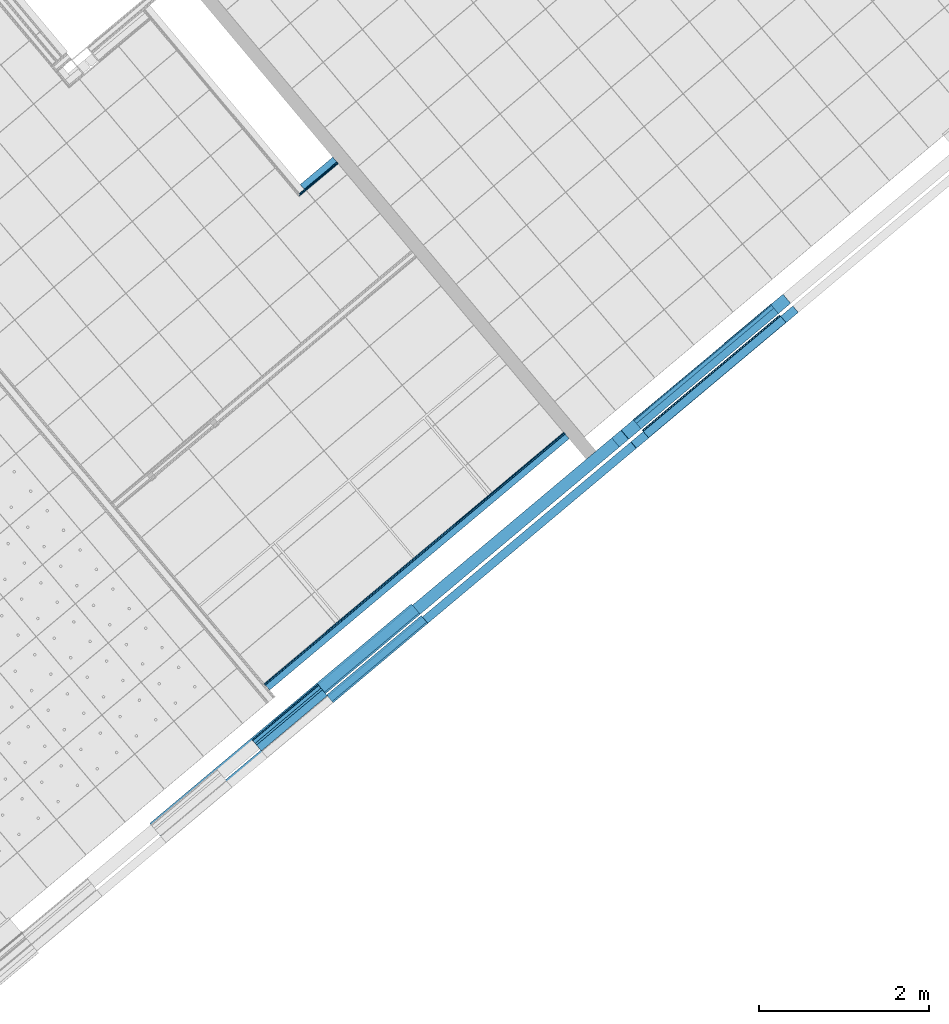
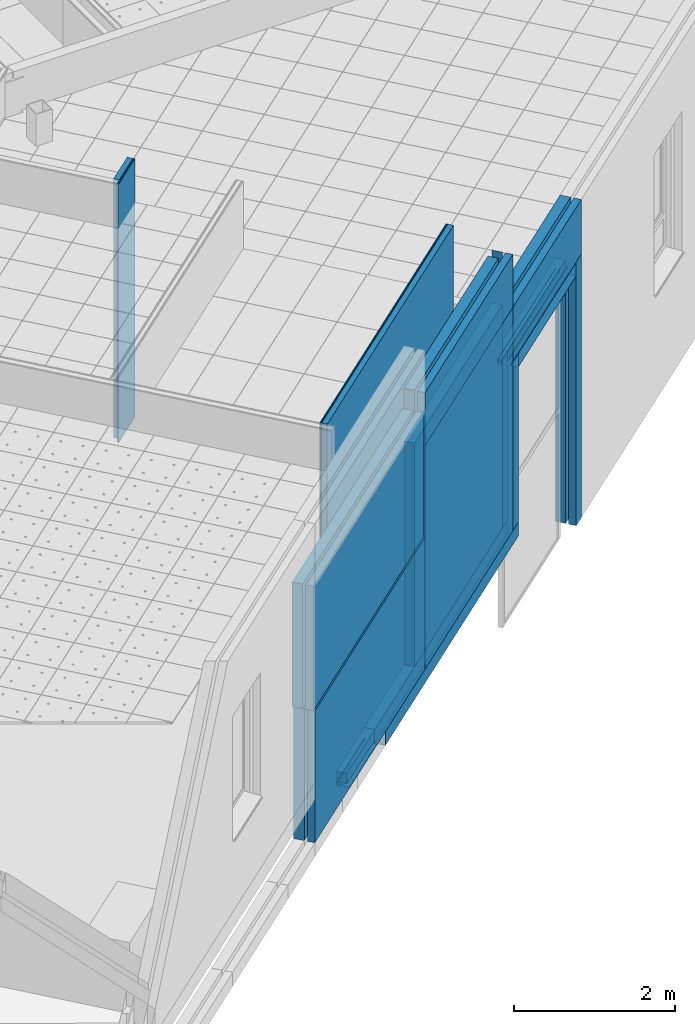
# One storey, part 53 of 321: 31 building element parts, 12 elements without a shape of their own.
"""IFC2X3 building model written with IfcOpenShell, lengths in millimetres."""

from ifc_helpers import new_model, entity, si_unit, converted_unit, derived_unit, money_unit, direction, frame, origin_with_axes, place, context, subcontext, project, spatial, faceted_brep, material, type_object, element, aggregate, save


model = new_model("IFC2X3")

# Units and contexts
model_context = context("Model", 3, precision=0.01, world=origin_with_axes(), true_north=direction((0.0, 1.0)))
plan_context = context("Plan", 3, precision=0.01, world=origin_with_axes(), true_north=direction((0.0, 1.0)))
body_context = subcontext(model_context, "Body", "Model", "MODEL_VIEW")
ifc_project = project(units=[si_unit("LENGTHUNIT", "METRE", prefix="MILLI"), si_unit("AREAUNIT", "SQUARE_METRE"), si_unit("VOLUMEUNIT", "CUBIC_METRE"), converted_unit("PLANEANGLEUNIT", "DEGREE", entity("IfcPlaneAngleMeasure", 0.0174532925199), si_unit("PLANEANGLEUNIT", "RADIAN"), dimensions=[0, 0, 0, 0, 0, 0, 0]), money_unit("EUR"), converted_unit("TIMEUNIT", "Year", entity("IfcTimeMeasure", 31556926.0), si_unit("TIMEUNIT", "SECOND"), dimensions=[0, 0, 1, 0, 0, 0, 0]), si_unit("MASSUNIT", "GRAM", prefix="KILO"), si_unit("THERMODYNAMICTEMPERATUREUNIT", "DEGREE_CELSIUS"), si_unit("LUMINOUSINTENSITYUNIT", "LUMEN"), si_unit("ENERGYUNIT", "JOULE", prefix="MEGA"), derived_unit("THERMALCONDUCTANCEUNIT", [(si_unit("POWERUNIT", "WATT"), 1), (si_unit("LENGTHUNIT", "METRE"), -1), (si_unit("THERMODYNAMICTEMPERATUREUNIT", "KELVIN"), -1)]), derived_unit("SPECIFICHEATCAPACITYUNIT", [(si_unit("ENERGYUNIT", "JOULE"), 1), (si_unit("MASSUNIT", "GRAM", prefix="KILO"), -1), (si_unit("THERMODYNAMICTEMPERATUREUNIT", "KELVIN"), -1)]), derived_unit("MASSDENSITYUNIT", [(si_unit("MASSUNIT", "GRAM", prefix="KILO"), 1), (si_unit("VOLUMEUNIT", "CUBIC_METRE"), -1)])], contexts=[model_context, plan_context])

# Site, building, storey
site_placement = place(None, origin_with_axes())
site = spatial("IfcSite", under=ifc_project, at=site_placement, Name="Fortuinstraat Woensdrecht", CompositionType="ELEMENT")
building_placement = place(site_placement, origin_with_axes())
building = spatial("IfcBuilding", under=site, at=building_placement, Name="IKC Fortuna", CompositionType="ELEMENT")
storey_placement = place(building_placement, frame((0.0, 0.0, 4000.0), z_axis=(0.0, 0.0, 1.0), x_axis=(1.0, 0.0, 0.0)))
storey = spatial("IfcBuildingStorey", under=building, at=storey_placement, Name="01 eerste verdieping", CompositionType="ELEMENT", Elevation=4000.0)

# Covering, building element parts
covering_type_1 = type_object("IfcCoveringType", Name="41 Latei MW rollaag zw 280 x 227", PredefinedType="NOTDEFINED")
covering_1_placement = place(storey_placement, frame((30121.0312369, -3533.18185942, 2800.0), z_axis=(0.0, 0.0, 1.0), x_axis=(-0.766044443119, -0.642787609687, 0.0)))
covering_1 = element("IfcCovering", 1, at=covering_1_placement, inside=storey, type_object=covering_type_1, Name="41_Afwerking_Latei + rollaag", PredefinedType="NOTDEFINED")
ifc_material_1 = material(Name="Metaal - Staal C")
building_element_part_1_placement = place(covering_1_placement, origin_with_axes())
building_element_part_1 = element("IfcBuildingElementPart", 2, at=building_element_part_1_placement, material=ifc_material_1, Name="Metaal - Staal C", context=body_context, shape_type="Brep", body=[
    faceted_brep([(2105.99885452, 29.9999999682, 112.580611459), (0.0, 29.9999999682, 112.580611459), (0.0, 20.8284271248, 121.828427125), (2105.99885452, 20.8284271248, 121.828427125), (0.0, 29.9999999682, 107.000000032), (2105.99885452, 29.9999999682, 107.000000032), (0.0, 18.0000000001, 119.0), (2105.99885452, 18.0000000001, 119.0)], [[[0, 1, 2, 3]], [[4, 1, 0, 5]], [[1, 4, 6, 2]], [[6, 7, 3, 2]], [[5, 0, 3, 7]], [[4, 5, 7, 6]]]),
    faceted_brep([(0.0, 32.0, 20.0), (0.0, 36.0000000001, 20.0), (0.0, 36.0000000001, 3.99999999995), (0.0, 37.1715728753, 1.17157287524), (0.0, 40.0, 0.0), (0.0, 115.609685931, 0.0), (0.0, 136.0, -4.07767729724), (0.0, 135.215535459, -8.0), (0.0, 115.215535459, -4.0), (0.0, 36.0, -4.0), (0.0, 33.1715728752, -2.82842712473), (0.0, 32.0, 0.0), (2105.99885452, 36.0000000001, 20.0), (2105.99885452, 32.0, 20.0), (2105.99885452, 36.0000000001, 3.99999999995), (2105.99885452, 37.1715728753, 1.17157287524), (2105.99885452, 40.0, 0.0), (2105.99885452, 115.609685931, 0.0), (2105.99885452, 136.0, -4.07767729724), (2105.99885452, 135.215535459, -8.0), (2105.99885452, 115.215535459, -4.0), (2105.99885452, 36.0, -4.0), (2105.99885452, 33.1715728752, -2.82842712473), (2105.99885452, 32.0, 0.0)], [[[0, 1, 2, 3, 4, 5, 6, 7, 8, 9, 10, 11]], [[12, 1, 0, 13]], [[1, 12, 14, 2]], [[2, 14, 15, 3]], [[3, 15, 16, 4]], [[4, 16, 17, 5]], [[5, 17, 18, 6]], [[6, 18, 19, 7]], [[7, 19, 20, 8]], [[8, 20, 21, 9]], [[9, 21, 22, 10]], [[10, 22, 23, 11]], [[13, 0, 11, 23]], [[12, 13, 23, 22, 21, 20, 19, 18, 17, 16, 15, 14]]]),
])
ifc_material_2 = material(Name="Steen - Baksteen Accent Rollaag")
building_element_part_2_placement = place(covering_1_placement, origin_with_axes())
building_element_part_2 = element("IfcBuildingElementPart", 3, at=building_element_part_2_placement, material=ifc_material_2, Name="Steen - Baksteen Accent Rollaag", context=body_context, shape_type="Brep", body=[
    faceted_brep([(0.0, 40.0, 20.0), (0.0, 129.999999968, 20.0), (0.0, 129.999999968, 24.0), (0.0, 128.242640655, 28.2426406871), (0.0, 123.999999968, 30.0), (0.0, 51.9999999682, 30.0), (0.0, 43.514718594, 33.5147186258), (0.0, 39.9999999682, 42.0), (0.0, 40.0, 210.0), (0.0, 140.0, 210.0), (0.0, 140.0, 0.0), (0.0, 115.609685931, 0.0), (0.0, 40.0, 0.0), (2105.99885452, 40.0, 20.0), (2105.99885452, 129.999999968, 20.0), (2105.99885452, 129.999999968, 24.0), (2105.99885452, 128.242640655, 28.2426406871), (2105.99885452, 123.999999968, 30.0), (2105.99885452, 51.9999999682, 30.0), (2105.99885452, 43.514718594, 33.5147186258), (2105.99885452, 39.9999999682, 42.0), (2105.99885452, 40.0, 210.0), (2105.99885452, 140.0, 210.0), (2105.99885452, 140.0, 0.0), (2105.99885452, 115.609685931, 0.0), (2105.99885452, 40.0, 0.0)], [[[0, 1, 2, 3, 4, 5, 6, 7, 8, 9, 10, 11, 12]], [[1, 0, 13, 14]], [[2, 1, 14, 15]], [[3, 2, 15, 16]], [[4, 3, 16, 17]], [[5, 4, 17, 18]], [[6, 5, 18, 19]], [[7, 6, 19, 20]], [[7, 20, 21, 8]], [[8, 21, 22, 9]], [[9, 22, 23, 10]], [[10, 23, 24, 11]], [[11, 24, 25, 12]], [[13, 0, 12, 25]], [[14, 13, 25, 24, 23, 22, 21, 20, 19, 18, 17, 16, 15]]]),
])
ifc_material_3 = material(Name="ALG - ISOLATIE")
building_element_part_3_placement = place(covering_1_placement, origin_with_axes())
building_element_part_3 = element("IfcBuildingElementPart", 4, at=building_element_part_3_placement, material=ifc_material_3, Name="ALG - ISOLATIE", context=body_context, shape_type="Brep", body=[
    faceted_brep([(0.0, -140.0, 53.0), (2105.99885452, -140.0, 53.0), (2105.99885452, -140.0, 210.0), (0.0, -140.0, 210.0), (0.0, -83.9999988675, 53.0000013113), (2105.99885452, -83.9999988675, 53.0000013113), (2105.99885452, 0.0, 53.0), (2105.99885452, 0.0, 210.0), (0.0, 0.0, 210.0), (0.0, 0.0, 53.0)], [[[0, 1, 2, 3]], [[4, 5, 1, 0]], [[2, 1, 5, 6, 7]], [[3, 2, 7, 8]], [[4, 0, 3, 8, 9]], [[9, 6, 5, 4]], [[8, 7, 6, 9]]]),
])
ifc_material_4 = material(Name="Hout AFW")
building_element_part_4_placement = place(covering_1_placement, origin_with_axes())
building_element_part_4 = element("IfcBuildingElementPart", 5, at=building_element_part_4_placement, material=ifc_material_4, Name="Hout AFW", context=body_context, shape_type="Brep", body=[
    faceted_brep([(0.0, -127.999998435, 53.0000013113), (2105.99885452, -127.999998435, 53.0000013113), (2105.99885452, -83.9999988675, 53.0000013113), (0.0, -83.9999988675, 53.0000013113), (0.0, -127.999998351, -1.28576260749e-07), (2105.99885452, -127.999998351, -1.28576260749e-07), (2105.99885452, -127.999998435, -17.0), (2105.99885452, -83.9999988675, -17.0), (0.0, -83.9999988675, -17.0), (0.0, -127.999998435, -17.0)], [[[0, 1, 2, 3]], [[4, 5, 1, 0]], [[2, 1, 5, 6, 7]], [[3, 2, 7, 8]], [[4, 0, 3, 8, 9]], [[9, 6, 5, 4]], [[8, 7, 6, 9]]]),
])
ifc_material_5 = material(Name="Isolatie - PUR gespoten")
building_element_part_5_placement = place(covering_1_placement, origin_with_axes())
building_element_part_5 = element("IfcBuildingElementPart", 6, at=building_element_part_5_placement, material=ifc_material_5, Name="Isolatie - PUR gespoten", context=body_context, shape_type="Brep", body=[
    faceted_brep([(0.0, -139.999999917, 53.0000002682), (2105.99885452, -139.999999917, 53.0000002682), (2105.99885452, -127.999998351, 53.0000013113), (0.0, -127.999998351, 53.0000013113), (0.0, -139.999999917, -1.28576260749e-07), (2105.99885452, -139.999999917, -1.28576260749e-07), (2105.99885452, -127.999998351, -1.28576260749e-07), (0.0, -127.999998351, -1.28576260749e-07)], [[[0, 1, 2, 3]], [[4, 5, 1, 0]], [[2, 1, 5, 6]], [[3, 2, 6, 7]], [[4, 0, 3, 7]], [[7, 6, 5, 4]]]),
])
aggregate(covering_1, [building_element_part_1, building_element_part_2, building_element_part_3, building_element_part_4, building_element_part_5])

# Wall, building element parts
wall_type_1 = type_object("IfcWallType", Name="21 MW hoofd 280", PredefinedType="NOTDEFINED")
wall_1_placement = place(storey_placement, frame((25823.18718, -6956.74420193, 447.5), z_axis=(0.0, 0.0, 1.0), x_axis=(0.766044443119, 0.642787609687, 0.0)))
wall_1 = element("IfcWall", 7, at=wall_1_placement, inside=storey, type_object=wall_type_1, Name="21_Wand_Baksteen")
building_element_part_6_placement = place(wall_1_placement, origin_with_axes())
building_element_part_6 = element("IfcBuildingElementPart", 8, at=building_element_part_6_placement, material=ifc_material_3, Name="ALG - ISOLATIE", context=body_context, shape_type="Brep", body=[
    faceted_brep([(0.0, 0.0, 0.0), (3199.46415743, 0.0, 0.0), (3199.46415743, -140.0, 0.0), (0.0, -140.0, 0.0), (0.0, 0.0, 3392.5), (3199.46415743, 0.0, 3392.5), (3199.46415743, -140.0, 3392.5), (0.0, -140.0, 3392.5)], [[[0, 1, 2, 3]], [[4, 5, 1, 0]], [[2, 1, 5, 6]], [[3, 2, 6, 7]], [[4, 0, 3, 7]], [[7, 6, 5, 4]]]),
])
ifc_material_6 = material(Name="Steen - Baksteen Hoofd")
building_element_part_7_placement = place(wall_1_placement, origin_with_axes())
building_element_part_7 = element("IfcBuildingElementPart", 9, at=building_element_part_7_placement, material=ifc_material_6, Name="Steen - Baksteen Hoofd", context=body_context, shape_type="Brep", body=[
    faceted_brep([(0.0, -280.0, 0.0), (0.0, -180.0, 0.0), (3199.46415743, -180.0, 0.0), (3199.46415743, -280.0, 0.0), (0.0, -280.0, 3392.5), (0.0, -180.0, 3392.5), (3199.46415743, -180.0, 3392.5), (3199.46415743, -280.0, 3392.5)], [[[0, 1, 2, 3]], [[4, 5, 1, 0]], [[1, 5, 6, 2]], [[7, 3, 2, 6]], [[4, 0, 3, 7]], [[5, 4, 7, 6]]]),
])
aggregate(wall_1, [building_element_part_6, building_element_part_7])

wall_type_2 = type_object("IfcWallType", Name="MS100 75.2A 100", PredefinedType="NOTDEFINED")
wall_2_placement = place(storey_placement, frame((24492.2825822, -2158.0526338, 1360.0), z_axis=(0.0, 0.0, 1.0), x_axis=(0.766044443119, 0.642787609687, 0.0)))
wall_2 = element("IfcWall", 10, at=wall_2_placement, inside=storey, type_object=wall_type_2, Name="22_Wand_Binnenwand")
ifc_material_7 = material(Name="Isolatie - Steenwol LSW")
building_element_part_8_placement = place(wall_2_placement, origin_with_axes())
building_element_part_8 = element("IfcBuildingElementPart", 11, at=building_element_part_8_placement, material=ifc_material_7, Name="Isolatie - Steenwol LSW", context=body_context, shape_type="Brep", body=[
    faceted_brep([(600.0, 100.0, 0.0), (600.0, 25.0, 0.0), (100.0, 25.0, 0.0), (100.0, 100.0, 0.0), (600.0, 100.0, 3930.0), (600.0, 25.0, 3930.0), (100.0, 25.0, 3930.0), (100.0, 100.0, 3930.0)], [[[0, 1, 2, 3]], [[0, 4, 5, 1]], [[1, 5, 6, 2]], [[3, 2, 6, 7]], [[4, 0, 3, 7]], [[5, 4, 7, 6]]]),
])
ifc_material_8 = material(Name="Gipsplaat")
building_element_part_9_placement = place(wall_2_placement, origin_with_axes())
building_element_part_9 = element("IfcBuildingElementPart", 12, at=building_element_part_9_placement, material=ifc_material_8, Name="Gipsplaat", context=body_context, shape_type="Brep", body=[
    faceted_brep([(600.0, 25.0, 0.0), (600.0, 12.5, 0.0), (25.0, 12.5, 0.0), (25.0, 25.0, 0.0), (600.0, 25.0, 3930.0), (600.0, 12.5, 3930.0), (25.0, 12.5, 3930.0), (25.0, 25.0, 3930.0)], [[[0, 1, 2, 3]], [[0, 4, 5, 1]], [[1, 5, 6, 2]], [[3, 2, 6, 7]], [[4, 0, 3, 7]], [[5, 4, 7, 6]]]),
])
building_element_part_10_placement = place(wall_2_placement, origin_with_axes())
building_element_part_10 = element("IfcBuildingElementPart", 13, at=building_element_part_10_placement, material=ifc_material_8, Name="Gipsplaat", context=body_context, shape_type="Brep", body=[
    faceted_brep([(600.0, 12.5, 0.0), (600.0, 0.0, 0.0), (12.5, 0.0, 0.0), (12.5, 12.5, 0.0), (600.0, 12.5, 3930.0), (600.0, 0.0, 3930.0), (12.5, 0.0, 3930.0), (12.5, 12.5, 3930.0)], [[[0, 1, 2, 3]], [[0, 4, 5, 1]], [[1, 5, 6, 2]], [[3, 2, 6, 7]], [[4, 0, 3, 7]], [[5, 4, 7, 6]]]),
])
aggregate(wall_2, [building_element_part_8, building_element_part_9, building_element_part_10])

wall_3_placement = place(storey_placement, frame((25823.18718, -6956.74420193, 3840.0), z_axis=(0.0, 0.0, 1.0), x_axis=(0.766044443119, 0.642787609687, 0.0)))
wall_3 = element("IfcWall", 14, at=wall_3_placement, inside=storey, type_object=wall_type_1, Name="21_Wand_Baksteen")
building_element_part_11_placement = place(wall_3_placement, origin_with_axes())
building_element_part_11 = element("IfcBuildingElementPart", 15, at=building_element_part_11_placement, material=ifc_material_3, Name="ALG - ISOLATIE", context=body_context, shape_type="Brep", body=[
    faceted_brep([(3194.63653506, 0.0, 260.0), (3054.63653506, 0.0, 260.0), (3054.63653506, -140.0, 260.0), (3194.63653506, -140.0, 260.0), (3194.63653506, 0.0, 801.474798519), (3194.99993391, 0.0, 801.474798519), (3194.99993391, 0.0, 0.0), (0.0, 0.0, 0.0), (0.0, 0.0, 801.474798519), (3054.63653506, 0.0, 801.474798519), (3054.63653506, -140.0, 801.474798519), (0.0, -140.0, 801.474798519), (0.0, -140.0, 0.0), (3194.99993391, -140.0, 0.0), (3194.99993391, -140.0, 801.474798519), (3194.63653506, -140.0, 801.474798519)], [[[0, 1, 2, 3]], [[1, 0, 4, 5, 6, 7, 8, 9]], [[9, 10, 2, 1]], [[2, 10, 11, 12, 13, 14, 15, 3]], [[3, 15, 4, 0]], [[4, 15, 14, 5]], [[13, 6, 5, 14]], [[7, 6, 13, 12]], [[8, 7, 12, 11]], [[10, 9, 8, 11]]]),
])
building_element_part_12_placement = place(wall_3_placement, origin_with_axes())
building_element_part_12 = element("IfcBuildingElementPart", 16, at=building_element_part_12_placement, material=ifc_material_6, Name="Steen - Baksteen Hoofd", context=body_context, shape_type="Brep", body=[
    faceted_brep([(0.0, -180.0, 0.0), (3194.99993391, -180.0, 0.0), (3194.99993391, -280.0, 0.0), (0.0, -280.0, 0.0), (0.0, -180.0, 801.474798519), (3194.99993391, -180.0, 801.474798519), (3194.99993391, -280.0, 801.474798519), (0.0, -280.0, 801.474798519)], [[[0, 1, 2, 3]], [[4, 5, 1, 0]], [[2, 1, 5, 6]], [[3, 2, 6, 7]], [[4, 0, 3, 7]], [[7, 6, 5, 4]]]),
])
aggregate(wall_3, [building_element_part_11, building_element_part_12])

# Covering, building element parts
covering_type_2 = type_object("IfcCoveringType", Name="21 MW accent rollaag 280", PredefinedType="NOTDEFINED")
covering_2_placement = place(storey_placement, frame((28597.7327825, -4994.13805116, 447.5), z_axis=(0.0, 0.0, 1.0), x_axis=(-0.766044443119, -0.642787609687, 0.0)))
covering_2 = element("IfcCovering", 17, at=covering_2_placement, inside=storey, type_object=covering_type_2, Name="41_Afwerking_Rollaag", PredefinedType="NOTDEFINED")
building_element_part_13_placement = place(covering_2_placement, origin_with_axes())
building_element_part_13 = element("IfcBuildingElementPart", 18, at=building_element_part_13_placement, material=ifc_material_2, Name="Steen - Baksteen Accent Rollaag", context=body_context, shape_type="Brep", body=[
    faceted_brep([(0.0, -100.0, 2372.5), (0.0, -10.0000000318, 2372.5), (0.0, -10.0000000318, 2376.5), (0.0, -11.7573593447, 2380.74264069), (0.0, -16.0000000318, 2382.5), (0.0, -88.0000000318, 2382.5), (0.0, -96.485281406, 2386.01471863), (0.0, -100.000000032, 2394.5), (0.0, -100.0, 2562.5), (0.0, 0.0, 2562.5), (0.0, 0.0, 0.0), (0.0, -100.0, 0.0), (121.964223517, -100.0, 2372.5), (121.964223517, -10.0000000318, 2372.5), (121.964223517, -10.0000000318, 2376.5), (121.964223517, -11.7573593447, 2380.74264069), (121.964223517, -16.0000000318, 2382.5), (121.964223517, -88.0000000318, 2382.5), (121.964223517, -96.485281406, 2386.01471863), (121.964223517, -100.000000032, 2394.5), (187.5, -100.0, 0.0), (187.5, -100.0, 2562.5), (187.5, 0.0, 2562.5), (187.5, 0.0, 0.0)], [[[0, 1, 2, 3, 4, 5, 6, 7, 8, 9, 10, 11]], [[1, 0, 12, 13]], [[2, 1, 13, 14]], [[3, 2, 14, 15]], [[4, 3, 15, 16]], [[5, 4, 16, 17]], [[6, 5, 17, 18]], [[7, 6, 18, 19]], [[12, 0, 11, 20, 21, 8, 7, 19]], [[8, 21, 22, 9]], [[9, 22, 23, 10]], [[10, 23, 20, 11]], [[12, 19, 18, 17, 16, 15, 14, 13]], [[22, 21, 20, 23]]]),
])
building_element_part_14_placement = place(covering_2_placement, origin_with_axes())
building_element_part_14 = element("IfcBuildingElementPart", 19, at=building_element_part_14_placement, material=ifc_material_3, Name="ALG - ISOLATIE", context=body_context, shape_type="Brep", body=[
    faceted_brep([(0.0, -280.0, 2562.5), (187.5, -280.0, 2562.5), (187.5, -140.0, 2562.5), (0.0, -140.0, 2562.5), (0.0, -280.0, 0.0), (187.5, -280.0, 0.0), (187.5, -140.0, 0.0), (0.0, -140.0, 0.0)], [[[0, 1, 2, 3]], [[4, 5, 1, 0]], [[2, 1, 5, 6]], [[3, 2, 6, 7]], [[4, 0, 3, 7]], [[7, 6, 5, 4]]]),
])
aggregate(covering_2, [building_element_part_13, building_element_part_14])

# Wall, building element parts
wall_4_placement = place(storey_placement, frame((24032.6413353, -7918.75194201, 1360.0), z_axis=(0.0, 0.0, 1.0), x_axis=(0.766044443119, 0.642787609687, 0.0)))
wall_4 = element("IfcWall", 20, at=wall_4_placement, inside=storey, type_object=wall_type_2, Name="22_Wand_Binnenwand")
building_element_part_15_placement = place(wall_4_placement, origin_with_axes())
building_element_part_15 = element("IfcBuildingElementPart", 21, at=building_element_part_15_placement, material=ifc_material_8, Name="Gipsplaat", context=body_context, shape_type="Brep", body=[
    faceted_brep([(4655.01176146, -12.5, 3930.0), (4655.01176146, 0.0, 3930.0), (62.5, 0.0, 3930.0), (62.5, -12.5, 3930.0), (4655.01176146, -12.5, 0.0), (4655.01176146, 0.0, 0.0), (62.5, 0.0, 0.0), (62.5, -12.5, 0.0)], [[[0, 1, 2, 3]], [[0, 4, 5, 1]], [[1, 5, 6, 2]], [[3, 2, 6, 7]], [[4, 0, 3, 7]], [[5, 4, 7, 6]]]),
])
building_element_part_16_placement = place(wall_4_placement, origin_with_axes())
building_element_part_16 = element("IfcBuildingElementPart", 22, at=building_element_part_16_placement, material=ifc_material_8, Name="Gipsplaat", context=body_context, shape_type="Brep", body=[
    faceted_brep([(4655.01176146, -25.0, 3930.0), (4655.01176146, -12.5, 3930.0), (62.5, -12.5, 3930.0), (62.5, -25.0, 3930.0), (4655.01176146, -25.0, 0.0), (4655.01176146, -12.5, 0.0), (62.5, -12.5, 0.0), (62.5, -25.0, 0.0)], [[[0, 1, 2, 3]], [[0, 4, 5, 1]], [[1, 5, 6, 2]], [[3, 2, 6, 7]], [[4, 0, 3, 7]], [[5, 4, 7, 6]]]),
])
building_element_part_17_placement = place(wall_4_placement, origin_with_axes())
building_element_part_17 = element("IfcBuildingElementPart", 23, at=building_element_part_17_placement, material=ifc_material_7, Name="Isolatie - Steenwol LSW", context=body_context, shape_type="Brep", body=[
    faceted_brep([(4655.01176146, -100.0, 3930.0), (4655.01176146, -25.0, 3930.0), (62.5, -25.0, 3930.0), (62.5, -100.0, 3930.0), (4655.01176146, -100.0, 0.0), (4655.01176146, -25.0, 0.0), (62.5, -25.0, 0.0), (62.5, -100.0, 0.0)], [[[0, 1, 2, 3]], [[0, 4, 5, 1]], [[1, 5, 6, 2]], [[3, 2, 6, 7]], [[4, 0, 3, 7]], [[5, 4, 7, 6]]]),
])
aggregate(wall_4, [building_element_part_15, building_element_part_16, building_element_part_17])

# Covering, building element parts
covering_3_placement = place(storey_placement, frame((30354.6548354, -3519.90540469, -990.0), z_axis=(0.0, 0.0, 1.0), x_axis=(-0.766044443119, -0.642787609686, 0.0)))
covering_3 = element("IfcCovering", 24, at=covering_3_placement, inside=storey, type_object=covering_type_2, Name="41_Afwerking_Rollaag", PredefinedType="NOTDEFINED")
building_element_part_18_placement = place(covering_3_placement, origin_with_axes())
building_element_part_18 = element("IfcBuildingElementPart", 25, at=building_element_part_18_placement, material=ifc_material_2, Name="Steen - Baksteen Accent Rollaag", context=body_context, shape_type="Brep", body=[
    faceted_brep([(187.5, -100.0, 3810.0), (65.4630780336, -100.0, 3810.0), (65.4630780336, -100.000000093, 3832.0), (187.5, -100.000000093, 3832.0), (187.5, -100.0, 4000.0), (0.0, -100.0, 4000.0), (0.0, -100.0, 0.0), (187.5, -100.0, 0.0), (187.5, -10.0000000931, 3810.0), (65.4630780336, -10.0000000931, 3810.0), (65.4630780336, -10.0000000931, 3814.0), (65.4630780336, -11.7573594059, 3818.24264069), (65.4630780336, -16.0000000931, 3820.0), (65.4630780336, -88.0000000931, 3820.0), (65.4630780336, -96.4852814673, 3823.51471863), (187.5, -96.4852814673, 3823.51471863), (187.5, 0.0, 0.0), (187.5, 0.0, 4000.0), (187.5, -88.0000000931, 3820.0), (187.5, -16.0000000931, 3820.0), (187.5, -11.7573594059, 3818.24264069), (187.5, -10.0000000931, 3814.0), (0.0, 0.0, 4000.0), (0.0, 0.0, 0.0)], [[[0, 1, 2, 3, 4, 5, 6, 7]], [[1, 0, 8, 9]], [[2, 1, 9, 10, 11, 12, 13, 14]], [[3, 2, 14, 15]], [[8, 0, 7, 16, 17, 4, 3, 15, 18, 19, 20, 21]], [[5, 4, 17, 22]], [[6, 5, 22, 23]], [[23, 16, 7, 6]], [[8, 21, 10, 9]], [[21, 20, 11, 10]], [[20, 19, 12, 11]], [[19, 18, 13, 12]], [[18, 15, 14, 13]], [[22, 17, 16, 23]]]),
])
building_element_part_19_placement = place(covering_3_placement, origin_with_axes())
building_element_part_19 = element("IfcBuildingElementPart", 26, at=building_element_part_19_placement, material=ifc_material_3, Name="ALG - ISOLATIE", context=body_context, shape_type="Brep", body=[
    faceted_brep([(0.0, -280.0, 4000.0), (187.5, -280.0, 4000.0), (187.5, -140.0, 4000.0), (0.0, -140.0, 4000.0), (0.0, -280.0, 0.0), (187.5, -280.0, 0.0), (187.5, -140.0, 0.0), (0.0, -140.0, 0.0)], [[[0, 1, 2, 3]], [[4, 5, 1, 0]], [[2, 1, 5, 6]], [[3, 2, 6, 7]], [[4, 0, 3, 7]], [[7, 6, 5, 4]]]),
])
aggregate(covering_3, [building_element_part_18, building_element_part_19])

# Wall, building element parts
wall_5_placement = place(storey_placement, frame((28274.1189187, -4900.1682839, 3010.0), z_axis=(0.0, 0.0, 1.0), x_axis=(0.766044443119, 0.642787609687, 0.0)))
wall_5 = element("IfcWall", 27, at=wall_5_placement, inside=storey, type_object=wall_type_1, Name="21_Wand_Vezel Cement Plaat")
building_element_part_20_placement = place(wall_5_placement, origin_with_axes())
building_element_part_20 = element("IfcBuildingElementPart", 28, at=building_element_part_20_placement, material=ifc_material_3, Name="ALG - ISOLATIE", context=body_context, shape_type="Brep", body=[
    faceted_brep([(0.0, 0.0, 0.0), (2480.99885452, 0.0, 0.0), (2480.99885452, -140.0, 0.0), (0.0, -140.0, 0.0), (0.0, 0.0, 830.0), (2480.99885452, 0.0, 830.0), (2480.99885452, -140.0, 830.0), (0.0, -140.0, 830.0)], [[[0, 1, 2, 3]], [[4, 5, 1, 0]], [[2, 1, 5, 6]], [[3, 2, 6, 7]], [[4, 0, 3, 7]], [[7, 6, 5, 4]]]),
])
building_element_part_21_placement = place(wall_5_placement, origin_with_axes())
building_element_part_21 = element("IfcBuildingElementPart", 29, at=building_element_part_21_placement, material=ifc_material_6, Name="Steen - Baksteen Hoofd", context=body_context, shape_type="Brep", body=[
    faceted_brep([(0.0, -180.0, 0.0), (2480.99885452, -180.0, 0.0), (2480.99885452, -280.0, 0.0), (0.0, -280.0, 0.0), (0.0, -180.0, 830.0), (2480.99885452, -180.0, 830.0), (2480.99885452, -280.0, 830.0), (0.0, -280.0, 830.0)], [[[0, 1, 2, 3]], [[4, 5, 1, 0]], [[2, 1, 5, 6]], [[3, 2, 6, 7]], [[4, 0, 3, 7]], [[7, 6, 5, 4]]]),
])
aggregate(wall_5, [building_element_part_20, building_element_part_21])

# Covering, building element parts
covering_type_3 = type_object("IfcCoveringType", Name="41 Rollaag 280 x 210", PredefinedType="NOTDEFINED")
covering_4_placement = place(storey_placement, frame((28507.7425172, -4886.89182917, 237.5), z_axis=(0.0, 0.0, 1.0), x_axis=(-0.766044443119, -0.642787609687, 0.0)))
covering_4 = element("IfcCovering", 30, at=covering_4_placement, inside=storey, type_object=covering_type_3, Name="41_Afwerking_Rollaag", PredefinedType="NOTDEFINED")
building_element_part_22_placement = place(covering_4_placement, origin_with_axes())
building_element_part_22 = element("IfcBuildingElementPart", 31, at=building_element_part_22_placement, material=ifc_material_2, Name="Steen - Baksteen Accent Rollaag", context=body_context, shape_type="Brep", body=[
    faceted_brep([(4836.64764591, 40.0, 2.49999999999), (4699.16404117, 40.0, 2.49999999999), (4699.16404117, 40.0, 21.9276925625), (4836.64764591, 40.0, 21.9276925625), (4836.64764591, 40.0, 210.0), (0.0, 40.0, 210.0), (0.0, 40.0, 0.0), (4836.64764591, 40.0, 0.0), (4836.64764591, 128.934515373, 2.49999999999), (4699.16404117, 128.934515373, 2.49999999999), (4699.16404117, 128.934515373, 6.5), (4699.16404117, 127.17715606, 10.7426406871), (4699.16404117, 122.934515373, 12.5), (4699.16404117, 50.9345153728, 12.5), (4699.16404117, 42.4492339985, 16.0147186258), (4836.64764591, 42.4492339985, 16.0147186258), (4836.64764591, 140.0, 0.0), (4836.64764591, 140.0, 210.0), (4836.64764591, 50.9345153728, 12.5), (4836.64764591, 122.934515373, 12.5), (4836.64764591, 127.17715606, 10.7426406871), (4836.64764591, 128.934515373, 6.5), (0.0, 140.0, 210.0), (0.0, 140.0, 0.0)], [[[0, 1, 2, 3, 4, 5, 6, 7]], [[1, 0, 8, 9]], [[2, 1, 9, 10, 11, 12, 13, 14]], [[3, 2, 14, 15]], [[8, 0, 7, 16, 17, 4, 3, 15, 18, 19, 20, 21]], [[5, 4, 17, 22]], [[23, 6, 5, 22]], [[23, 16, 7, 6]], [[8, 21, 10, 9]], [[21, 20, 11, 10]], [[20, 19, 12, 11]], [[19, 18, 13, 12]], [[18, 15, 14, 13]], [[22, 17, 16, 23]]]),
])
building_element_part_23_placement = place(covering_4_placement, origin_with_axes())
building_element_part_23 = element("IfcBuildingElementPart", 32, at=building_element_part_23_placement, material=ifc_material_3, Name="ALG - ISOLATIE", context=body_context, shape_type="Brep", body=[
    faceted_brep([(0.0, 0.0, 0.0), (4836.64764591, 0.0, 0.0), (4836.64764591, -140.0, 0.0), (0.0, -140.0, 0.0), (0.0, 0.0, 210.0), (4836.64764591, 0.0, 210.0), (4836.64764591, -140.0, 210.0), (0.0, -140.0, 210.0)], [[[0, 1, 2, 3]], [[4, 5, 1, 0]], [[2, 1, 5, 6]], [[3, 2, 6, 7]], [[4, 0, 3, 7]], [[7, 6, 5, 4]]]),
])
aggregate(covering_4, [building_element_part_22, building_element_part_23])

covering_type_4 = type_object("IfcCoveringType", Name="41 Latei MW rollaag 280 x 227", PredefinedType="NOTDEFINED")
covering_5_placement = place(storey_placement, frame((24802.6554647, -7995.82900838, 237.5), z_axis=(0.0, 0.0, 1.0), x_axis=(-0.766044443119, -0.642787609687, 0.0)))
covering_5 = element("IfcCovering", 33, at=covering_5_placement, inside=storey, type_object=covering_type_4, Name="41_Afwerking_Latei + rollaag", PredefinedType="NOTDEFINED")
ifc_material_9 = material(Name="Metaal - Staal AFW")
building_element_part_24_placement = place(covering_5_placement, origin_with_axes())
building_element_part_24 = element("IfcBuildingElementPart", 34, at=building_element_part_24_placement, material=ifc_material_9, Name="Metaal - Staal AFW", context=body_context, shape_type="Brep", body=[
    faceted_brep([(0.0, 28.9345153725, 4.0), (0.0, 28.9345153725, 2.49999999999), (0.0, 32.0, 2.49999999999), (0.0, 32.0, 0.0), (0.0, -58.0, 0.0), (0.0, -58.0, 4.0), (1010.0, 28.9345153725, 4.0), (1010.0, 28.9345153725, 2.49999999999), (1010.0, 32.0, 2.49999999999), (1010.0, 32.0, 0.0), (1010.0, -58.0, 0.0), (1010.0, -58.0, 4.0)], [[[0, 1, 2, 3, 4, 5]], [[1, 0, 6, 7]], [[8, 2, 1, 7]], [[2, 8, 9, 3]], [[3, 9, 10, 4]], [[4, 10, 11, 5]], [[6, 0, 5, 11]], [[7, 6, 11, 10, 9, 8]]]),
])
building_element_part_25_placement = place(covering_5_placement, origin_with_axes())
building_element_part_25 = element("IfcBuildingElementPart", 35, at=building_element_part_25_placement, material=ifc_material_3, Name="ALG - ISOLATIE", context=body_context, shape_type="Brep", body=[
    faceted_brep([(0.0, -140.0, 53.0), (1010.0, -140.0, 53.0), (1010.0, -140.0, 210.0), (0.0, -140.0, 210.0), (0.0, -83.9999988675, 53.0000013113), (1010.0, -83.9999988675, 53.0000013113), (1010.0, 0.0, 53.0), (1010.0, 0.0, 210.0), (0.0, 0.0, 210.0), (0.0, 0.0, 53.0)], [[[0, 1, 2, 3]], [[4, 5, 1, 0]], [[2, 1, 5, 6, 7]], [[3, 2, 7, 8]], [[4, 0, 3, 8, 9]], [[9, 6, 5, 4]], [[8, 7, 6, 9]]]),
])
building_element_part_26_placement = place(covering_5_placement, origin_with_axes())
building_element_part_26 = element("IfcBuildingElementPart", 36, at=building_element_part_26_placement, material=ifc_material_4, Name="Hout AFW", context=body_context, shape_type="Brep", body=[
    faceted_brep([(0.0, -127.999998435, 53.0000013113), (1010.0, -127.999998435, 53.0000013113), (1010.0, -83.9999988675, 53.0000013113), (0.0, -83.9999988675, 53.0000013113), (0.0, -127.999998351, -1.28576260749e-07), (1010.0, -127.999998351, -1.28576260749e-07), (1010.0, -127.999998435, -17.0), (1010.0, -83.9999988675, -17.0), (0.0, -83.9999988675, -17.0), (0.0, -127.999998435, -17.0)], [[[0, 1, 2, 3]], [[4, 5, 1, 0]], [[2, 1, 5, 6, 7]], [[3, 2, 7, 8]], [[4, 0, 3, 8, 9]], [[9, 6, 5, 4]], [[8, 7, 6, 9]]]),
])
building_element_part_27_placement = place(covering_5_placement, origin_with_axes())
building_element_part_27 = element("IfcBuildingElementPart", 37, at=building_element_part_27_placement, material=ifc_material_5, Name="Isolatie - PUR gespoten", context=body_context, shape_type="Brep", body=[
    faceted_brep([(0.0, -139.999999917, 53.0000002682), (1010.0, -139.999999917, 53.0000002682), (1010.0, -127.999998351, 53.0000013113), (0.0, -127.999998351, 53.0000013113), (0.0, -139.999999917, -1.28576260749e-07), (1010.0, -139.999999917, -1.28576260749e-07), (1010.0, -127.999998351, -1.28576260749e-07), (0.0, -127.999998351, -1.28576260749e-07)], [[[0, 1, 2, 3]], [[4, 5, 1, 0]], [[2, 1, 5, 6]], [[3, 2, 6, 7]], [[4, 0, 3, 7]], [[7, 6, 5, 4]]]),
])
aggregate(covering_5, [building_element_part_24, building_element_part_25, building_element_part_26, building_element_part_27])

# Wall, building element parts
wall_type_3 = type_object("IfcWallType", Name="21 MW accent 280", PredefinedType="NOTDEFINED")
wall_6_placement = place(storey_placement, frame((22737.4492893, -9519.97693147, 2447.49998868), z_axis=(0.0, 0.0, 1.0), x_axis=(0.766044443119, 0.642787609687, 0.0)))
wall_6 = element("IfcWall", 38, at=wall_6_placement, inside=storey, type_object=wall_type_3, Name="21_Wand_Baksteen")
building_element_part_28_placement = place(wall_6_placement, origin_with_axes())
building_element_part_28 = element("IfcBuildingElementPart", 39, at=building_element_part_28_placement, material=ifc_material_3, Name="ALG - ISOLATIE", context=body_context, shape_type="Brep", body=[
    faceted_brep([(4011.42660334, 0.0, 0.0), (4011.42660334, -140.0, 0.0), (0.0, -140.0, 0.0), (0.0, 0.0, 0.0), (4011.42660334, 0.0, 1887.50001132), (4011.42660334, -140.0, 1887.50001132), (0.0, -140.0, 1887.50001132), (0.0, 0.0, 1887.50001132)], [[[0, 1, 2, 3]], [[0, 4, 5, 1]], [[1, 5, 6, 2]], [[3, 2, 6, 7]], [[4, 0, 3, 7]], [[5, 4, 7, 6]]]),
])
ifc_material_10 = material(Name="Steen - Baksteen Accent")
building_element_part_29_placement = place(wall_6_placement, origin_with_axes())
building_element_part_29 = element("IfcBuildingElementPart", 40, at=building_element_part_29_placement, material=ifc_material_10, Name="Steen - Baksteen Accent", context=body_context, shape_type="Brep", body=[
    faceted_brep([(4011.42660334, -180.0, 0.0), (4011.42660334, -280.0, 0.0), (0.0, -280.0, 0.0), (0.0, -180.0, 0.0), (4011.42660334, -180.0, 1887.50001132), (4011.42660334, -280.0, 1887.50001132), (0.0, -280.0, 1887.50001132), (0.0, -180.0, 1887.50001132)], [[[0, 1, 2, 3]], [[0, 4, 5, 1]], [[1, 5, 6, 2]], [[3, 2, 6, 7]], [[4, 0, 3, 7]], [[5, 4, 7, 6]]]),
])
aggregate(wall_6, [building_element_part_28, building_element_part_29])

wall_7_placement = place(storey_placement, frame((22751.591425, -9534.11906709, 447.5), z_axis=(0.0, 0.0, 1.0), x_axis=(0.766044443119, 0.642787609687, 0.0)))
wall_7 = element("IfcWall", 41, at=wall_7_placement, inside=storey, type_object=wall_type_1, Name="21_Wand_Baksteen")
building_element_part_30_placement = place(wall_7_placement, origin_with_axes())
building_element_part_30 = element("IfcBuildingElementPart", 42, at=building_element_part_30_placement, material=ifc_material_3, Name="ALG - ISOLATIE", context=body_context, shape_type="Brep", body=[
    faceted_brep([(0.0, 0.0, 0.0), (4009.68348848, 0.0, 0.0), (4009.68348848, -140.0, 0.0), (0.0, -140.0, 0.0), (0.0, 0.0, 1999.99998868), (4009.68348848, 0.0, 1999.99998868), (4009.68348848, -140.0, 1999.99998868), (0.0, -140.0, 1999.99998868)], [[[0, 1, 2, 3]], [[4, 5, 1, 0]], [[2, 1, 5, 6]], [[3, 2, 6, 7]], [[4, 0, 3, 7]], [[7, 6, 5, 4]]]),
])
building_element_part_31_placement = place(wall_7_placement, origin_with_axes())
building_element_part_31 = element("IfcBuildingElementPart", 43, at=building_element_part_31_placement, material=ifc_material_6, Name="Steen - Baksteen Hoofd", context=body_context, shape_type="Brep", body=[
    faceted_brep([(0.0, -180.0, 0.0), (4009.68348848, -180.0, 0.0), (4009.68348848, -280.0, 0.0), (0.0, -280.0, 0.0), (0.0, -180.0, 1999.99998868), (4009.68348848, -180.0, 1999.99998868), (4009.68348848, -280.0, 1999.99998868), (0.0, -280.0, 1999.99998868)], [[[0, 1, 2, 3]], [[4, 5, 1, 0]], [[2, 1, 5, 6]], [[3, 2, 6, 7]], [[4, 0, 3, 7]], [[7, 6, 5, 4]]]),
])
aggregate(wall_7, [building_element_part_30, building_element_part_31])

save(model, "model.ifc")
